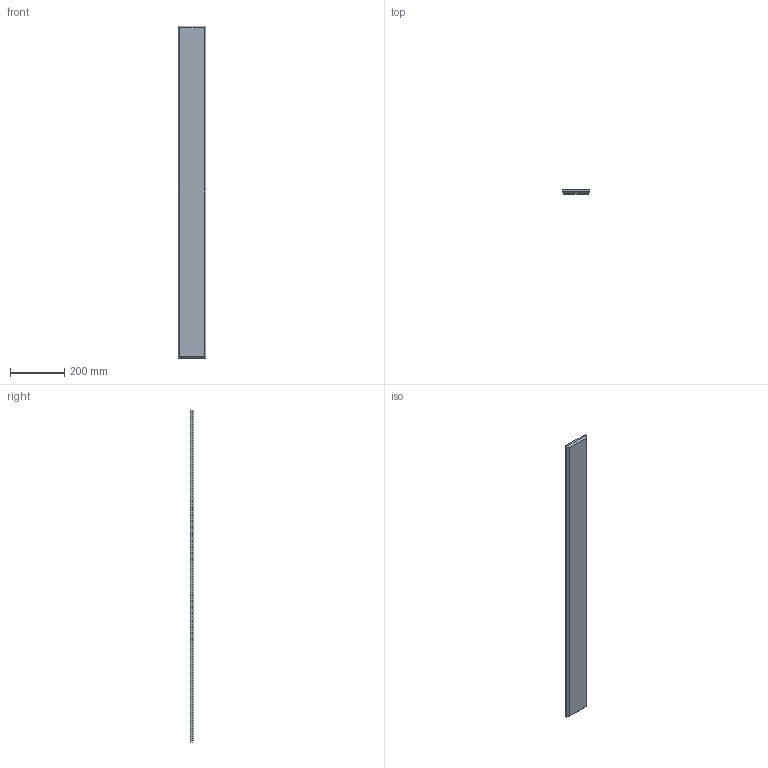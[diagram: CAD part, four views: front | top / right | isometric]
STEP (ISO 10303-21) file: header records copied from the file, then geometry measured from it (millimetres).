
FILE_DESCRIPTION(/* description */ (''),/* implementation_level */ '2;1');
FILE_NAME(/* name */ 'PET PLANQ_Beveled_4x48',/* time_stamp */ '2024-10-31T13:55:32-05:00',/* author */ (''),/* organization */ (''),/* preprocessor_version */ 'ST-DEVELOPER v19.2',/* originating_system */ 'Rhino 8.4',/* authorisation */ '');
FILE_SCHEMA (('CONFIG_CONTROL_DESIGN'));
Length unit declared in the file: inch
Products named in the file (1): Document
Bounding box: 101.6 x 12.7 x 1219.2 mm (x, y, z)
Volume: 1520241.6 mm3; surface area: 271396.9 mm2
Topology: 1 solids, 1 shells, 10 faces, 20 edges, 12 vertices
Faces by surface type: plane 10
Entity records: 310 total; most frequent: CARTESIAN_POINT 64, ORIENTED_EDGE 40, EDGE_CURVE 20, B_SPLINE_CURVE_WITH_KNOTS 20, DIRECTION 14, VERTEX_POINT 12, AXIS2_PLACEMENT_3D 12, ADVANCED_FACE 10
